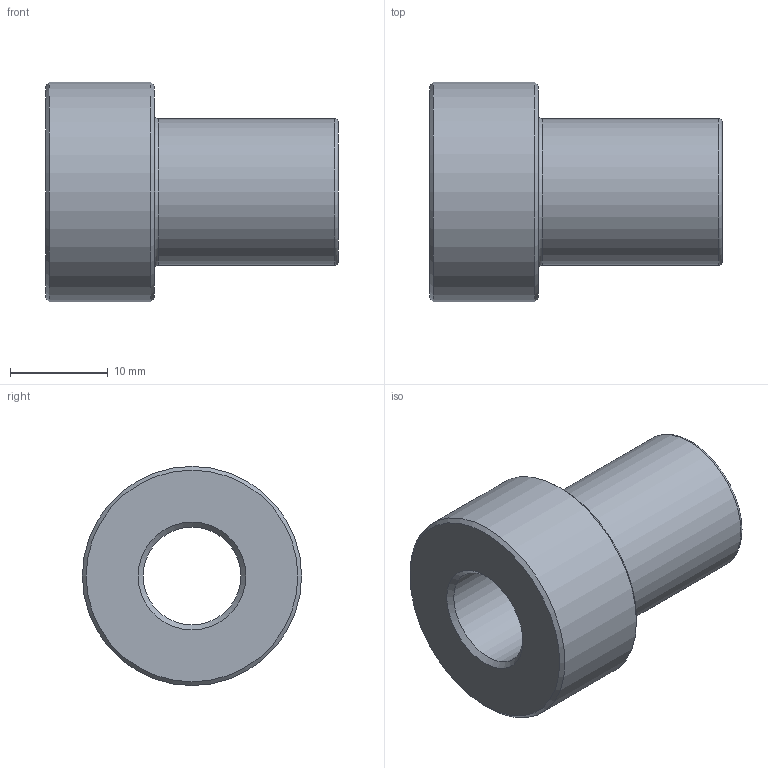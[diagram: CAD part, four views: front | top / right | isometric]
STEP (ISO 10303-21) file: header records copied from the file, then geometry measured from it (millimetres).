
FILE_DESCRIPTION( ( 'STEP AP214' ), '1' );
FILE_NAME( 'p:/temp/worker_31/temp/app_52_02019012316265184554510192d056f_000000_00_00_000000/format_0/MB4SS.stp', '2019-01-23T15:26:52', ( '' ), ( '' ), ' ', 'PARTsolutions', ' ' );
FILE_SCHEMA( ( 'AUTOMOTIVE_DESIGN { 1 0 10303 214 1 1 1 1 }' ) );
Length unit declared in the file: inch
Products named in the file (1): _MB4SS
Bounding box: 29.9 x 22.4 x 22.4 mm (x, y, z)
Volume: 5325.5 mm3; surface area: 3171.2 mm2
Topology: 1 solids, 1 shells, 12 faces, 21 edges, 12 vertices
Faces by surface type: cone 4, plane 3, cylinder 3, torus 2
Full cylindrical faces by diameter (mm): 10 x1, 14.99 x1, 22.4 x1
Entity records: 360 total; most frequent: DIRECTION 50, CARTESIAN_POINT 37, AXIS2_PLACEMENT_3D 25, EDGE_LOOP 24, ORIENTED_EDGE 24, FACE_OUTER_BOUND 17, STYLED_ITEM 12, PRESENTATION_STYLE_ASSIGNMENT 12
